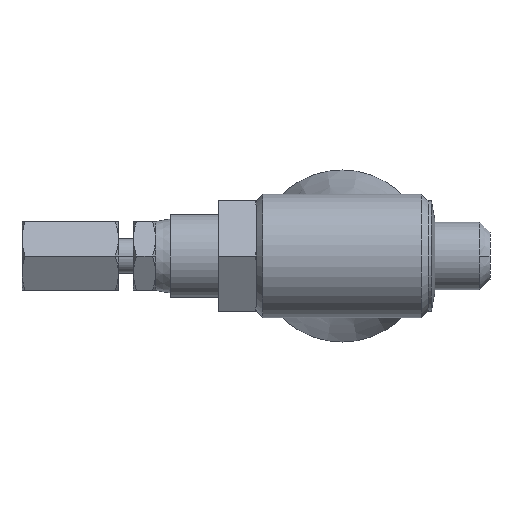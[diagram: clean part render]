
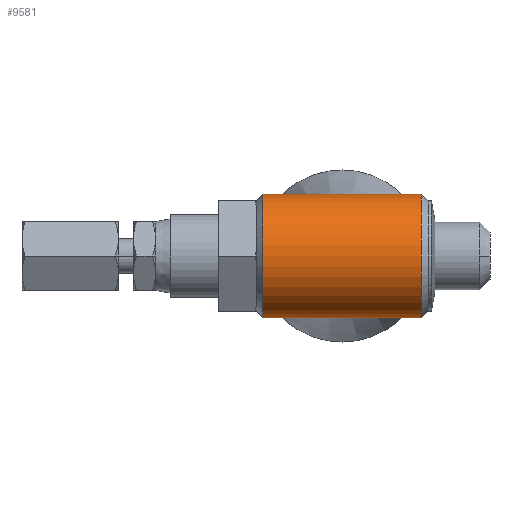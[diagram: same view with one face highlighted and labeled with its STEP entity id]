
A CAD part, left-side view. The second image highlights one B-rep face of the part: STEP entity #9581.
In plain terms, the highlighted cylindrical face has radius 4.5 mm (diameter 9 mm), a partial arc.
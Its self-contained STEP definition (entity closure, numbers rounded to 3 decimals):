
#175 = AXIS2_PLACEMENT_3D ( 'NONE', #15201, #7329, #4823 ) ;
#183 = CARTESIAN_POINT ( 'NONE',  ( 0., 5., -4.5 ) ) ;
#314 = LINE ( 'NONE', #5528, #6924 ) ;
#662 = DIRECTION ( 'NONE',  ( 0., 0., -1. ) ) ;
#679 = EDGE_CURVE ( 'NONE', #1040, #5860, #314, .T. ) ;
#1040 = VERTEX_POINT ( 'NONE', #7888 ) ;
#1701 = CARTESIAN_POINT ( 'NONE',  ( 0., 10.956, 4.5 ) ) ;
#2108 = DIRECTION ( 'NONE',  ( 0., -1., 0. ) ) ;
#2445 = LINE ( 'NONE', #5348, #14606 ) ;
#2455 = EDGE_CURVE ( 'NONE', #1040, #13780, #10066, .T. ) ;
#2494 = CARTESIAN_POINT ( 'NONE',  ( 0., 5., 4.5 ) ) ;
#2788 = EDGE_CURVE ( 'NONE', #10394, #16954, #15127, .T. ) ;
#3045 = ORIENTED_EDGE ( 'NONE', *, *, #8079, .T. ) ;
#3216 = CARTESIAN_POINT ( 'NONE',  ( 0., 10.544, 4.5 ) ) ;
#3254 = VERTEX_POINT ( 'NONE', #183 ) ;
#3490 = ORIENTED_EDGE ( 'NONE', *, *, #3894, .F. ) ;
#3522 = VERTEX_POINT ( 'NONE', #3216 ) ;
#3803 = ORIENTED_EDGE ( 'NONE', *, *, #4434, .T. ) ;
#3894 = EDGE_CURVE ( 'NONE', #3522, #7525, #2445, .T. ) ;
#4434 = EDGE_CURVE ( 'NONE', #3522, #5860, #4870, .T. ) ;
#4823 = DIRECTION ( 'NONE',  ( 0., 0., -1. ) ) ;
#4870 = B_SPLINE_CURVE_WITH_KNOTS ( 'NONE', 3,
 ( #14661, #8345, #6902, #6797, #1701 ),
 .UNSPECIFIED., .F., .F.,
 ( 4, 1, 4 ),
 ( 0.019, 0.019, 0.019 ),
 .UNSPECIFIED. ) ;
#5348 = CARTESIAN_POINT ( 'NONE',  ( 0., 3.5, 4.5 ) ) ;
#5350 = ORIENTED_EDGE ( 'NONE', *, *, #6685, .T. ) ;
#5521 = CARTESIAN_POINT ( 'NONE',  ( 0., 10.544, -4.5 ) ) ;
#5528 = CARTESIAN_POINT ( 'NONE',  ( 0., 3.5, 4.5 ) ) ;
#5860 = VERTEX_POINT ( 'NONE', #12451 ) ;
#6685 = EDGE_CURVE ( 'NONE', #13780, #10394, #16626, .T. ) ;
#6797 = CARTESIAN_POINT ( 'NONE',  ( -0.013, 10.887, 4.5 ) ) ;
#6902 = CARTESIAN_POINT ( 'NONE',  ( -0.025, 10.75, 4.5 ) ) ;
#6924 = VECTOR ( 'NONE', #16291, 1000. ) ;
#7054 = EDGE_LOOP ( 'NONE', ( #14205, #9359, #5350, #9890, #3045, #14554, #3490, #3803 ) ) ;
#7080 = CARTESIAN_POINT ( 'NONE',  ( 0., 10.956, -4.5 ) ) ;
#7329 = DIRECTION ( 'NONE',  ( 0., -1., 0. ) ) ;
#7525 = VERTEX_POINT ( 'NONE', #2494 ) ;
#7888 = CARTESIAN_POINT ( 'NONE',  ( 0., 16.5, 4.5 ) ) ;
#7966 = FACE_OUTER_BOUND ( 'NONE', #7054, .T. ) ;
#7984 = DIRECTION ( 'NONE',  ( 0., -1., 0. ) ) ;
#8079 = EDGE_CURVE ( 'NONE', #16954, #3254, #8181, .T. ) ;
#8181 = LINE ( 'NONE', #11648, #16409 ) ;
#8345 = CARTESIAN_POINT ( 'NONE',  ( -0.013, 10.613, 4.5 ) ) ;
#8584 = CARTESIAN_POINT ( 'NONE',  ( 0., 5., 0. ) ) ;
#9026 = VECTOR ( 'NONE', #2108, 1000. ) ;
#9359 = ORIENTED_EDGE ( 'NONE', *, *, #2455, .T. ) ;
#9581 = ADVANCED_FACE ( 'NONE', ( #7966 ), #12288, .T. ) ;
#9890 = ORIENTED_EDGE ( 'NONE', *, *, #2788, .T. ) ;
#9948 = DIRECTION ( 'NONE',  ( 0., 1., 0. ) ) ;
#10066 = CIRCLE ( 'NONE', #11434, 4.5 ) ;
#10182 = CARTESIAN_POINT ( 'NONE',  ( 0., 3.5, -4.5 ) ) ;
#10394 = VERTEX_POINT ( 'NONE', #13990 ) ;
#11073 = CARTESIAN_POINT ( 'NONE',  ( -0.013, 10.887, -4.5 ) ) ;
#11434 = AXIS2_PLACEMENT_3D ( 'NONE', #16013, #7984, #15906 ) ;
#11648 = CARTESIAN_POINT ( 'NONE',  ( 0., 3.5, -4.5 ) ) ;
#11993 = CARTESIAN_POINT ( 'NONE',  ( -0.013, 10.613, -4.5 ) ) ;
#12288 = CYLINDRICAL_SURFACE ( 'NONE', #175, 4.5 ) ;
#12414 = CARTESIAN_POINT ( 'NONE',  ( 0., 10.544, -4.5 ) ) ;
#12451 = CARTESIAN_POINT ( 'NONE',  ( 0., 10.956, 4.5 ) ) ;
#13780 = VERTEX_POINT ( 'NONE', #14871 ) ;
#13990 = CARTESIAN_POINT ( 'NONE',  ( 0., 10.956, -4.5 ) ) ;
#14054 = CIRCLE ( 'NONE', #14347, 4.5 ) ;
#14205 = ORIENTED_EDGE ( 'NONE', *, *, #679, .F. ) ;
#14347 = AXIS2_PLACEMENT_3D ( 'NONE', #8584, #9948, #662 ) ;
#14554 = ORIENTED_EDGE ( 'NONE', *, *, #14706, .T. ) ;
#14606 = VECTOR ( 'NONE', #16974, 1000. ) ;
#14661 = CARTESIAN_POINT ( 'NONE',  ( 0., 10.544, 4.5 ) ) ;
#14706 = EDGE_CURVE ( 'NONE', #3254, #7525, #14054, .T. ) ;
#14871 = CARTESIAN_POINT ( 'NONE',  ( 0., 16.5, -4.5 ) ) ;
#15127 = B_SPLINE_CURVE_WITH_KNOTS ( 'NONE', 3,
 ( #7080, #11073, #16344, #11993, #5521 ),
 .UNSPECIFIED., .F., .F.,
 ( 4, 1, 4 ),
 ( 0., 0., 0. ),
 .UNSPECIFIED. ) ;
#15201 = CARTESIAN_POINT ( 'NONE',  ( 0., 3.5, 0. ) ) ;
#15906 = DIRECTION ( 'NONE',  ( 0., 0., -1. ) ) ;
#16013 = CARTESIAN_POINT ( 'NONE',  ( 0., 16.5, 0. ) ) ;
#16291 = DIRECTION ( 'NONE',  ( 0., -1., 0. ) ) ;
#16344 = CARTESIAN_POINT ( 'NONE',  ( -0.025, 10.75, -4.5 ) ) ;
#16409 = VECTOR ( 'NONE', #16864, 1000. ) ;
#16626 = LINE ( 'NONE', #10182, #9026 ) ;
#16864 = DIRECTION ( 'NONE',  ( 0., -1., 0. ) ) ;
#16954 = VERTEX_POINT ( 'NONE', #12414 ) ;
#16974 = DIRECTION ( 'NONE',  ( 0., -1., 0. ) ) ;
